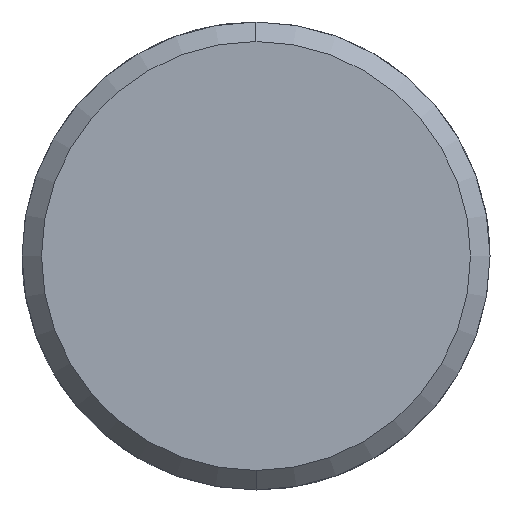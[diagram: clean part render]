
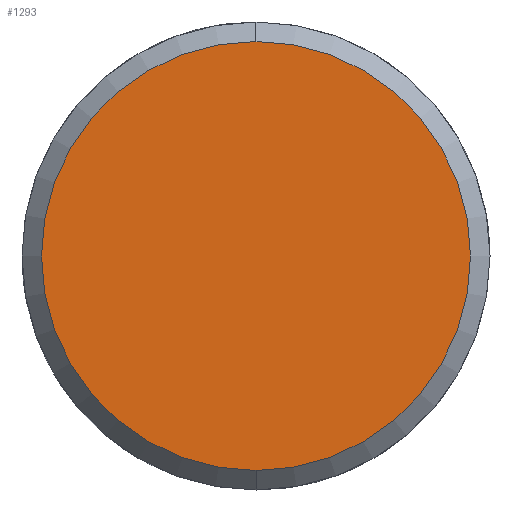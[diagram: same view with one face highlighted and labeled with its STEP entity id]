
A CAD part, left-side view. The second image highlights one B-rep face of the part: STEP entity #1293.
In plain terms, the highlighted planar face has unit normal (-1, 0, 0).
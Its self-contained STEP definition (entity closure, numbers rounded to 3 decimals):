
#1225=CARTESIAN_POINT('Vertex',(-5.,0.,-11.)) ;
#1228=CARTESIAN_POINT('Axis2P3D Location',(-5.,0.,0.)) ;
#1232=CARTESIAN_POINT('Vertex',(-5.,11.,0.)) ;
#1235=CARTESIAN_POINT('Axis2P3D Location',(-5.,0.,0.)) ;
#1239=CARTESIAN_POINT('Vertex',(-5.,0.,11.)) ;
#1261=CARTESIAN_POINT('Axis2P3D Location',(-5.,0.,0.)) ;
#1265=CARTESIAN_POINT('Vertex',(-5.,-11.,0.)) ;
#1268=CARTESIAN_POINT('Axis2P3D Location',(-5.,0.,0.)) ;
#1282=CARTESIAN_POINT('Axis2P3D Location',(-5.,0.,0.)) ;
#1229=DIRECTION('Axis2P3D Direction',(1.,0.,-0.)) ;
#1236=DIRECTION('Axis2P3D Direction',(1.,0.,-0.)) ;
#1262=DIRECTION('Axis2P3D Direction',(1.,0.,-0.)) ;
#1269=DIRECTION('Axis2P3D Direction',(1.,0.,-0.)) ;
#1283=DIRECTION('Axis2P3D Direction',(1.,0.,-0.)) ;
#1284=DIRECTION('Axis2P3D XDirection',(-0.,0.,-1.)) ;
#1230=AXIS2_PLACEMENT_3D('Circle Axis2P3D',#1228,#1229,$) ;
#1237=AXIS2_PLACEMENT_3D('Circle Axis2P3D',#1235,#1236,$) ;
#1263=AXIS2_PLACEMENT_3D('Circle Axis2P3D',#1261,#1262,$) ;
#1270=AXIS2_PLACEMENT_3D('Circle Axis2P3D',#1268,#1269,$) ;
#1285=AXIS2_PLACEMENT_3D('Plane Axis2P3D',#1282,#1283,#1284) ;
#1288=ORIENTED_EDGE('',*,*,#1234,.F.) ;
#1289=ORIENTED_EDGE('',*,*,#1272,.F.) ;
#1290=ORIENTED_EDGE('',*,*,#1267,.F.) ;
#1291=ORIENTED_EDGE('',*,*,#1241,.F.) ;
#1293=ADVANCED_FACE('351-14X22X100',(#1292),#1286,.F.) ;
#1231=CIRCLE('generated circle',#1230,11.) ;
#1238=CIRCLE('generated circle',#1237,11.) ;
#1264=CIRCLE('generated circle',#1263,11.) ;
#1271=CIRCLE('generated circle',#1270,11.) ;
#1234=EDGE_CURVE('',#1226,#1233,#1231,.T.) ;
#1241=EDGE_CURVE('',#1233,#1240,#1238,.T.) ;
#1267=EDGE_CURVE('',#1240,#1266,#1264,.T.) ;
#1272=EDGE_CURVE('',#1266,#1226,#1271,.T.) ;
#1287=EDGE_LOOP('',(#1288,#1289,#1290,#1291)) ;
#1292=FACE_OUTER_BOUND('',#1287,.T.) ;
#1286=PLANE('Plane',#1285) ;
#1226=VERTEX_POINT('',#1225) ;
#1233=VERTEX_POINT('',#1232) ;
#1240=VERTEX_POINT('',#1239) ;
#1266=VERTEX_POINT('',#1265) ;
